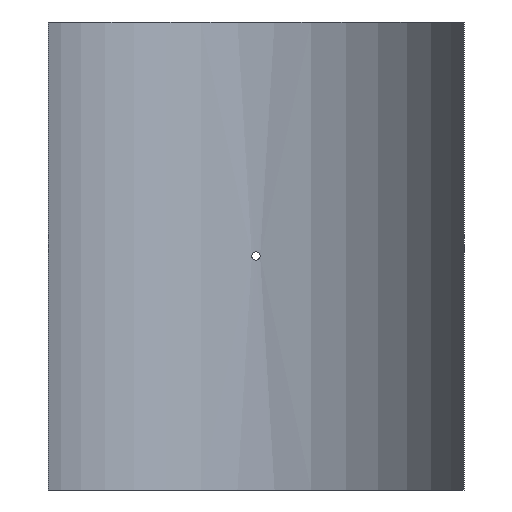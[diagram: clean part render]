
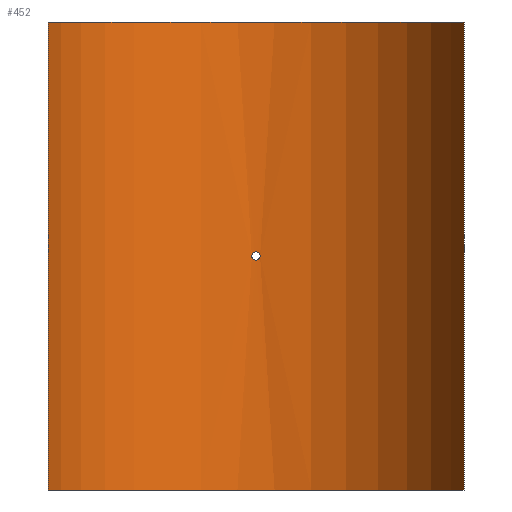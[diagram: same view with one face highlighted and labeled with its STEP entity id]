
A CAD part, front view. The second image highlights one B-rep face of the part: STEP entity #452.
In plain terms, the highlighted cylindrical face has radius 250 mm (diameter 500 mm), a partial arc.
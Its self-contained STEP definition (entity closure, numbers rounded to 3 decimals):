
#19=B_SPLINE_CURVE_WITH_KNOTS('',3,(#788,#789,#790,#791,#792,#793,#794,
#795,#796,#797,#798,#799,#800,#801,#802,#803,#804,#805,#806,#807,#808,#809,
#810,#811,#812,#813,#814,#815,#816,#817,#818,#819,#820,#821),
 .UNSPECIFIED.,.T.,.F.,(4,2,2,2,2,2,2,2,2,2,2,2,2,2,2,2,4),(0.,0.181,
0.362,0.542,0.723,0.904,
1.085,1.266,1.447,1.627,1.808,
1.989,2.17,2.351,2.531,2.712,
2.893),.UNSPECIFIED.);
#43=LINE('',#1081,#62);
#44=LINE('',#1084,#63);
#62=VECTOR('',#661,10.);
#63=VECTOR('',#664,10.);
#76=CYLINDRICAL_SURFACE('',#530,250.);
#88=FACE_BOUND('',#167,.T.);
#127=FACE_OUTER_BOUND('',#166,.T.);
#166=EDGE_LOOP('',(#405,#406,#407,#408));
#167=EDGE_LOOP('',(#409));
#201=CIRCLE('',#529,250.);
#202=CIRCLE('',#531,250.);
#219=VERTEX_POINT('',#786);
#242=VERTEX_POINT('',#1074);
#243=VERTEX_POINT('',#1076);
#244=VERTEX_POINT('',#1080);
#245=VERTEX_POINT('',#1082);
#267=EDGE_CURVE('',#219,#219,#19,.T.);
#299=EDGE_CURVE('',#242,#243,#201,.T.);
#301=EDGE_CURVE('',#244,#242,#43,.T.);
#302=EDGE_CURVE('',#245,#244,#202,.T.);
#303=EDGE_CURVE('',#245,#243,#44,.T.);
#405=ORIENTED_EDGE('',*,*,#301,.F.);
#406=ORIENTED_EDGE('',*,*,#302,.F.);
#407=ORIENTED_EDGE('',*,*,#303,.T.);
#408=ORIENTED_EDGE('',*,*,#299,.F.);
#409=ORIENTED_EDGE('',*,*,#267,.T.);
#452=ADVANCED_FACE('',(#127,#88),#76,.F.);
#529=AXIS2_PLACEMENT_3D('',#1077,#656,#657);
#530=AXIS2_PLACEMENT_3D('',#1079,#659,#660);
#531=AXIS2_PLACEMENT_3D('',#1083,#662,#663);
#656=DIRECTION('center_axis',(0.,0.,1.));
#657=DIRECTION('ref_axis',(0.96,0.28,0.));
#659=DIRECTION('center_axis',(0.,0.,1.));
#660=DIRECTION('ref_axis',(0.96,0.28,0.));
#661=DIRECTION('',(0.,0.,-1.));
#662=DIRECTION('center_axis',(0.,0.,-1.));
#663=DIRECTION('ref_axis',(0.96,0.28,0.));
#664=DIRECTION('',(0.,0.,-1.));
#786=CARTESIAN_POINT('',(4.8,249.954,0.));
#788=CARTESIAN_POINT('Ctrl Pts',(4.8,249.954,0.));
#789=CARTESIAN_POINT('Ctrl Pts',(4.8,249.954,-0.603));
#790=CARTESIAN_POINT('Ctrl Pts',(4.68,249.956,-1.246));
#791=CARTESIAN_POINT('Ctrl Pts',(4.19,249.965,-2.428));
#792=CARTESIAN_POINT('Ctrl Pts',(3.82,249.971,-2.968));
#793=CARTESIAN_POINT('Ctrl Pts',(2.968,249.983,-3.82));
#794=CARTESIAN_POINT('Ctrl Pts',(2.428,249.989,-4.19));
#795=CARTESIAN_POINT('Ctrl Pts',(1.246,249.998,-4.68));
#796=CARTESIAN_POINT('Ctrl Pts',(0.603,250.,-4.8));
#797=CARTESIAN_POINT('Ctrl Pts',(-0.603,250.,-4.8));
#798=CARTESIAN_POINT('Ctrl Pts',(-1.246,249.998,-4.68));
#799=CARTESIAN_POINT('Ctrl Pts',(-2.428,249.989,-4.19));
#800=CARTESIAN_POINT('Ctrl Pts',(-2.968,249.983,-3.82));
#801=CARTESIAN_POINT('Ctrl Pts',(-3.82,249.971,-2.968));
#802=CARTESIAN_POINT('Ctrl Pts',(-4.19,249.965,-2.428));
#803=CARTESIAN_POINT('Ctrl Pts',(-4.68,249.956,-1.246));
#804=CARTESIAN_POINT('Ctrl Pts',(-4.8,249.954,-0.603));
#805=CARTESIAN_POINT('Ctrl Pts',(-4.8,249.954,0.603));
#806=CARTESIAN_POINT('Ctrl Pts',(-4.68,249.956,1.246));
#807=CARTESIAN_POINT('Ctrl Pts',(-4.19,249.965,2.428));
#808=CARTESIAN_POINT('Ctrl Pts',(-3.82,249.971,2.968));
#809=CARTESIAN_POINT('Ctrl Pts',(-2.968,249.983,3.82));
#810=CARTESIAN_POINT('Ctrl Pts',(-2.428,249.989,4.19));
#811=CARTESIAN_POINT('Ctrl Pts',(-1.246,249.998,4.68));
#812=CARTESIAN_POINT('Ctrl Pts',(-0.603,250.,4.8));
#813=CARTESIAN_POINT('Ctrl Pts',(0.603,250.,4.8));
#814=CARTESIAN_POINT('Ctrl Pts',(1.246,249.998,4.68));
#815=CARTESIAN_POINT('Ctrl Pts',(2.428,249.989,4.19));
#816=CARTESIAN_POINT('Ctrl Pts',(2.968,249.983,3.82));
#817=CARTESIAN_POINT('Ctrl Pts',(3.82,249.971,2.968));
#818=CARTESIAN_POINT('Ctrl Pts',(4.19,249.965,2.428));
#819=CARTESIAN_POINT('Ctrl Pts',(4.68,249.956,1.246));
#820=CARTESIAN_POINT('Ctrl Pts',(4.8,249.954,0.603));
#821=CARTESIAN_POINT('Ctrl Pts',(4.8,249.954,0.));
#1074=CARTESIAN_POINT('',(240.,70.,-270.));
#1076=CARTESIAN_POINT('',(-240.,70.,-270.));
#1077=CARTESIAN_POINT('Origin',(0.,0.,
-270.));
#1079=CARTESIAN_POINT('Origin',(0.,0.,
0.));
#1080=CARTESIAN_POINT('',(240.,70.,270.));
#1081=CARTESIAN_POINT('',(240.,70.,0.));
#1082=CARTESIAN_POINT('',(-240.,70.,270.));
#1083=CARTESIAN_POINT('Origin',(0.,0.,
270.));
#1084=CARTESIAN_POINT('',(-240.,70.,0.));
